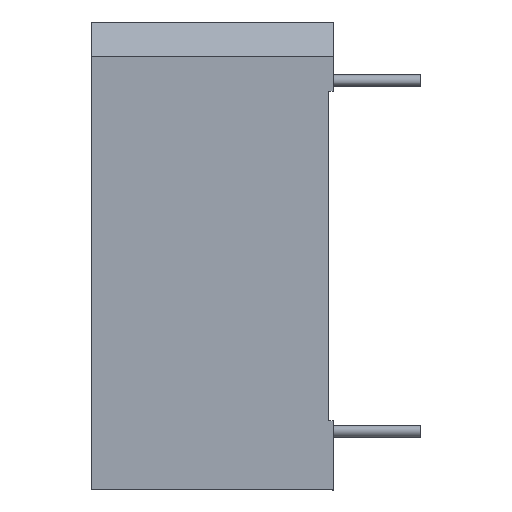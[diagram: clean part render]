
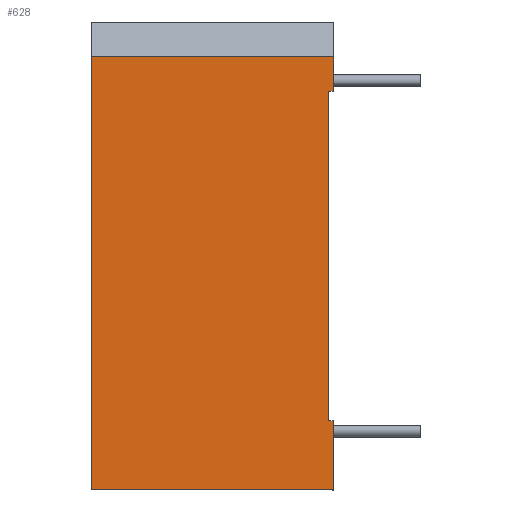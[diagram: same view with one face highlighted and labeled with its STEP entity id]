
A CAD part, left-side view. The second image highlights one B-rep face of the part: STEP entity #628.
In plain terms, the highlighted planar face has unit normal (-1, 0, 0).
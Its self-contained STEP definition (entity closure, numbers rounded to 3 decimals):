
#2 = EDGE_CURVE ( 'NONE', #1146, #162, #471, .T. ) ;
#4 = CARTESIAN_POINT ( 'NONE',  ( -15.9, -0.2, 7.15 ) ) ;
#31 = LINE ( 'NONE', #890, #272 ) ;
#34 = EDGE_CURVE ( 'NONE', #1254, #1146, #1352, .T. ) ;
#51 = EDGE_CURVE ( 'NONE', #880, #1482, #477, .T. ) ;
#89 = CARTESIAN_POINT ( 'NONE',  ( -15.9, -0.2, 8.65 ) ) ;
#151 = VERTEX_POINT ( 'NONE', #1117 ) ;
#162 = VERTEX_POINT ( 'NONE', #752 ) ;
#170 = VECTOR ( 'NONE', #1054, 1000. ) ;
#204 = EDGE_CURVE ( 'NONE', #1243, #1482, #31, .T. ) ;
#205 = ORIENTED_EDGE ( 'NONE', *, *, #2, .T. ) ;
#263 = EDGE_LOOP ( 'NONE', ( #561, #285, #872, #205, #902, #692, #1382, #531 ) ) ;
#272 = VECTOR ( 'NONE', #1240, 1000. ) ;
#285 = ORIENTED_EDGE ( 'NONE', *, *, #1595, .F. ) ;
#299 = VECTOR ( 'NONE', #463, 1000. ) ;
#342 = CARTESIAN_POINT ( 'NONE',  ( -15.9, 10.3, -10.15 ) ) ;
#343 = CARTESIAN_POINT ( 'NONE',  ( -15.9, -0.2, 8.65 ) ) ;
#350 = DIRECTION ( 'NONE',  ( 0., 0., -1. ) ) ;
#463 = DIRECTION ( 'NONE',  ( 0., 1., 0. ) ) ;
#471 = LINE ( 'NONE', #1216, #639 ) ;
#477 = LINE ( 'NONE', #342, #900 ) ;
#484 = CARTESIAN_POINT ( 'NONE',  ( -15.9, -0.2, -7.15 ) ) ;
#517 = CARTESIAN_POINT ( 'NONE',  ( -15.9, 10.3, -10.15 ) ) ;
#531 = ORIENTED_EDGE ( 'NONE', *, *, #51, .F. ) ;
#537 = DIRECTION ( 'NONE',  ( 0., -1., 0. ) ) ;
#542 = VECTOR ( 'NONE', #597, 1000. ) ;
#554 = LINE ( 'NONE', #1413, #170 ) ;
#561 = ORIENTED_EDGE ( 'NONE', *, *, #1476, .T. ) ;
#597 = DIRECTION ( 'NONE',  ( 0., 1., 0. ) ) ;
#628 = ADVANCED_FACE ( 'NONE', ( #731 ), #740, .F. ) ;
#639 = VECTOR ( 'NONE', #713, 1000. ) ;
#655 = CARTESIAN_POINT ( 'NONE',  ( -15.9, 10.3, -10.15 ) ) ;
#690 = CARTESIAN_POINT ( 'NONE',  ( -15.9, -0.2, 7.15 ) ) ;
#692 = ORIENTED_EDGE ( 'NONE', *, *, #1232, .F. ) ;
#697 = VECTOR ( 'NONE', #537, 1000. ) ;
#713 = DIRECTION ( 'NONE',  ( 0., 0., 1. ) ) ;
#714 = CARTESIAN_POINT ( 'NONE',  ( -15.9, -0.2, -7.15 ) ) ;
#731 = FACE_OUTER_BOUND ( 'NONE', #263, .T. ) ;
#740 = PLANE ( 'NONE',  #823 ) ;
#752 = CARTESIAN_POINT ( 'NONE',  ( -15.9, 0., 7.15 ) ) ;
#773 = CARTESIAN_POINT ( 'NONE',  ( -15.9, 0., -7.15 ) ) ;
#823 = AXIS2_PLACEMENT_3D ( 'NONE', #517, #1018, #1503 ) ;
#844 = DIRECTION ( 'NONE',  ( 0., 0., 1. ) ) ;
#872 = ORIENTED_EDGE ( 'NONE', *, *, #34, .T. ) ;
#880 = VERTEX_POINT ( 'NONE', #1067 ) ;
#890 = CARTESIAN_POINT ( 'NONE',  ( -15.9, 10.3, 8.65 ) ) ;
#899 = LINE ( 'NONE', #655, #697 ) ;
#900 = VECTOR ( 'NONE', #844, 1000. ) ;
#902 = ORIENTED_EDGE ( 'NONE', *, *, #909, .F. ) ;
#909 = EDGE_CURVE ( 'NONE', #942, #162, #1340, .T. ) ;
#942 = VERTEX_POINT ( 'NONE', #4 ) ;
#1018 = DIRECTION ( 'NONE',  ( 1., 0., 0. ) ) ;
#1054 = DIRECTION ( 'NONE',  ( 0., 0., -1. ) ) ;
#1067 = CARTESIAN_POINT ( 'NONE',  ( -15.9, 10.3, -10.15 ) ) ;
#1117 = CARTESIAN_POINT ( 'NONE',  ( -15.9, -0.2, -10.15 ) ) ;
#1146 = VERTEX_POINT ( 'NONE', #773 ) ;
#1216 = CARTESIAN_POINT ( 'NONE',  ( -15.9, 0., -10.15 ) ) ;
#1228 = LINE ( 'NONE', #343, #1495 ) ;
#1232 = EDGE_CURVE ( 'NONE', #1243, #942, #1228, .T. ) ;
#1240 = DIRECTION ( 'NONE',  ( 0., 1., 0. ) ) ;
#1243 = VERTEX_POINT ( 'NONE', #89 ) ;
#1254 = VERTEX_POINT ( 'NONE', #714 ) ;
#1340 = LINE ( 'NONE', #690, #542 ) ;
#1352 = LINE ( 'NONE', #484, #299 ) ;
#1382 = ORIENTED_EDGE ( 'NONE', *, *, #204, .T. ) ;
#1413 = CARTESIAN_POINT ( 'NONE',  ( -15.9, -0.2, -7.15 ) ) ;
#1423 = CARTESIAN_POINT ( 'NONE',  ( -15.9, 10.3, 8.65 ) ) ;
#1476 = EDGE_CURVE ( 'NONE', #880, #151, #899, .T. ) ;
#1482 = VERTEX_POINT ( 'NONE', #1423 ) ;
#1495 = VECTOR ( 'NONE', #350, 1000. ) ;
#1503 = DIRECTION ( 'NONE',  ( 0., 0., -1. ) ) ;
#1595 = EDGE_CURVE ( 'NONE', #1254, #151, #554, .T. ) ;
